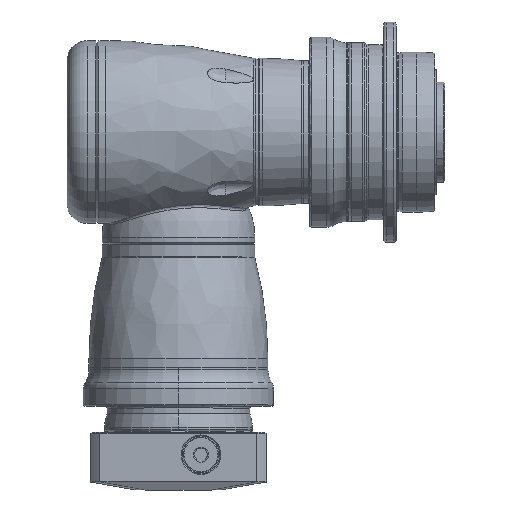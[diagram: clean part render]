
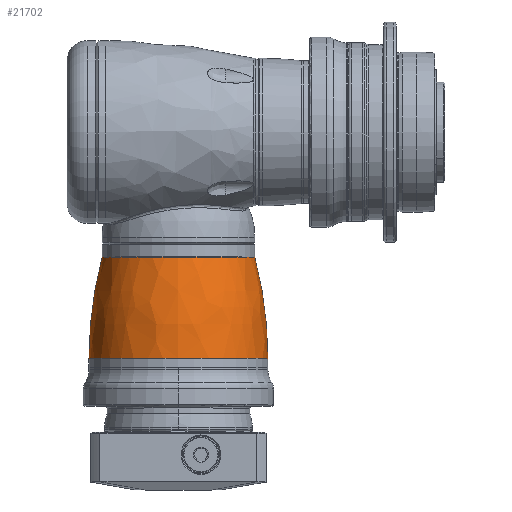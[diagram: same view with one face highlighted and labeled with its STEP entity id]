
A CAD part, top view. The second image highlights one B-rep face of the part: STEP entity #21702.
In plain terms, the highlighted free-form (B-spline) face has degree [3, 3] with [7, 4] control points.
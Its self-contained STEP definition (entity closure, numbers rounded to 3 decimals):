
#21531=CARTESIAN_POINT('',(-3.5,0.,0.));
#21532=DIRECTION('',(1.,0.,0.));
#21533=DIRECTION('',(0.,1.,0.));
#21534=AXIS2_PLACEMENT_3D('',#21531,#21532,#21533);
#21541=CARTESIAN_POINT('',(-43.937,0.,0.));
#21542=DIRECTION('',(-1.,0.,0.));
#21543=DIRECTION('',(0.,-1.,0.));
#21544=AXIS2_PLACEMENT_3D('',#21541,#21542,#21543);
#21546=CARTESIAN_POINT('',(-3.5,-123.089,0.));
#21547=DIRECTION('',(0.,0.,-1.));
#21548=DIRECTION('',(-0.255,0.967,0.));
#21549=AXIS2_PLACEMENT_3D('',#21546,#21547,#21548);
#21551=CARTESIAN_POINT('',(-3.5,123.089,0.));
#21552=DIRECTION('',(0.,0.,1.));
#21553=DIRECTION('',(-0.255,-0.967,0.));
#21554=AXIS2_PLACEMENT_3D('',#21551,#21552,#21553);
#21621=CARTESIAN_POINT('',(-3.5,35.75,0.));
#21622=CARTESIAN_POINT('',(-3.5,-35.75,0.));
#21623=VERTEX_POINT('',#21621);
#21624=VERTEX_POINT('',#21622);
#21629=CARTESIAN_POINT('',(-43.937,30.516,0.));
#21630=CARTESIAN_POINT('',(-43.937,-30.516,0.));
#21631=VERTEX_POINT('',#21629);
#21632=VERTEX_POINT('',#21630);
#21664=CARTESIAN_POINT('',(-2.682,-35.677,
-2.245));
#21665=CARTESIAN_POINT('',(-16.899,-35.75,
-2.249));
#21666=CARTESIAN_POINT('',(-30.998,-33.929,
-2.135));
#21667=CARTESIAN_POINT('',(-44.728,-30.246,
-1.903));
#21668=CARTESIAN_POINT('',(-2.682,-37.059,
19.711));
#21669=CARTESIAN_POINT('',(-16.899,-37.135,
19.752));
#21670=CARTESIAN_POINT('',(-30.998,-35.243,
18.745));
#21671=CARTESIAN_POINT('',(-44.728,-31.418,
16.711));
#21672=CARTESIAN_POINT('',(-2.682,-21.999,
35.748));
#21673=CARTESIAN_POINT('',(-16.899,-22.044,
35.821));
#21674=CARTESIAN_POINT('',(-30.998,-20.921,
33.996));
#21675=CARTESIAN_POINT('',(-44.728,-18.65,
30.306));
#21676=CARTESIAN_POINT('',(-2.682,0.,
35.748));
#21677=CARTESIAN_POINT('',(-16.899,0.,
35.821));
#21678=CARTESIAN_POINT('',(-30.998,0.,
33.996));
#21679=CARTESIAN_POINT('',(-44.728,0.,
30.306));
#21680=CARTESIAN_POINT('',(-2.682,21.999,
35.748));
#21681=CARTESIAN_POINT('',(-16.899,22.044,
35.821));
#21682=CARTESIAN_POINT('',(-30.998,20.921,
33.996));
#21683=CARTESIAN_POINT('',(-44.728,18.65,
30.306));
#21684=CARTESIAN_POINT('',(-2.682,37.059,
19.711));
#21685=CARTESIAN_POINT('',(-16.899,37.135,
19.752));
#21686=CARTESIAN_POINT('',(-30.998,35.243,
18.745));
#21687=CARTESIAN_POINT('',(-44.728,31.418,
16.711));
#21688=CARTESIAN_POINT('',(-2.682,35.677,
-2.245));
#21689=CARTESIAN_POINT('',(-16.899,35.75,
-2.249));
#21690=CARTESIAN_POINT('',(-30.998,33.929,
-2.135));
#21691=CARTESIAN_POINT('',(-44.728,30.246,
-1.903));
#21692=(BOUNDED_SURFACE()B_SPLINE_SURFACE(3,3,((#21664,#21665,#21666,#21667),(
#21668,#21669,#21670,#21671),(#21672,#21673,#21674,#21675),(#21676,#21677,
#21678,#21679),(#21680,#21681,#21682,#21683),(#21684,#21685,#21686,#21687),(
#21688,#21689,#21690,#21691)),.UNSPECIFIED.,.F.,.F.,.F.)B_SPLINE_SURFACE_WITH_KNOTS((4,3,4),(4,4),(0.,1.,2.),(0.,1.),.UNSPECIFIED.)GEOMETRIC_REPRESENTATION_ITEM()RATIONAL_B_SPLINE_SURFACE(((1.193,1.185,
1.185,1.193),(0.942,0.936,
0.936,0.942),(0.942,0.936,
0.936,0.942),(1.193,1.185,
1.185,1.193),(0.942,0.936,
0.936,0.942),(0.942,0.936,
0.936,0.942),(1.193,1.185,
1.185,1.193)))REPRESENTATION_ITEM('')SURFACE());
#21694=ORIENTED_EDGE('',*,*,#21693,.T.);
#21696=ORIENTED_EDGE('',*,*,#21695,.T.);
#21697=ORIENTED_EDGE('',*,*,#21654,.T.);
#21699=ORIENTED_EDGE('',*,*,#21698,.F.);
#21700=EDGE_LOOP('',(#21694,#21696,#21697,#21699));
#21701=FACE_OUTER_BOUND('',#21700,.F.);
#21702=ADVANCED_FACE('',(#21701),#21692,.T.);
#21535=CIRCLE('',#21534,35.75);
#21545=CIRCLE('',#21544,30.516);
#21550=CIRCLE('',#21549,158.839);
#21555=CIRCLE('',#21554,158.839);
#21654=EDGE_CURVE('',#21623,#21624,#21535,.T.);
#21693=EDGE_CURVE('',#21632,#21631,#21545,.T.);
#21695=EDGE_CURVE('',#21631,#21623,#21550,.T.);
#21698=EDGE_CURVE('',#21632,#21624,#21555,.T.);
